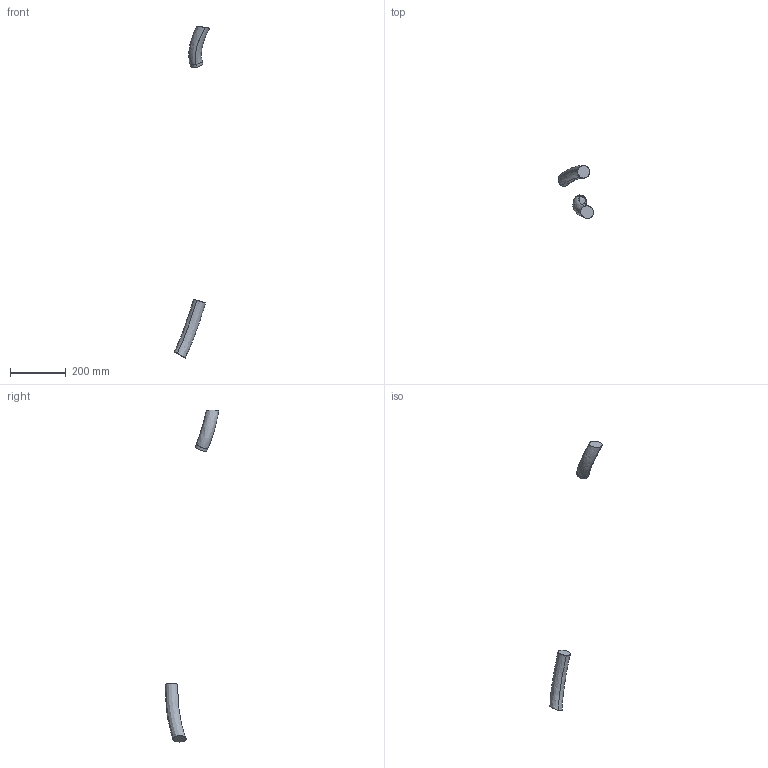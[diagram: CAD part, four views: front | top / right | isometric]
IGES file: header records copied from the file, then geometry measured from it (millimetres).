
Start section: SolidWorks IGES file using analytic representation for surfaces
Global section: file name: C:\DATA\SAP_DOC\LW\IRB 6730\IRB6730_210kg-310_OC_01_SW_J\Export\IRB6730_210kg-310_OC_01_IGES_J\IRB6730_210kg-310_OC_00_LINK02m_CABLE.igs; native system: SolidWorks 2024; preprocessor: SolidWorks 2024; author: SEJOVAS3; date: 260526.104109; units: millimetre
Bounding box: 126.77 x 191.36 x 1187.21 mm (x, y, z)
Surface area: 56708.1 mm2 (no closed solid volume)
Topology: 0 solids, 0 shells, 10 faces, 373 edges, 373 vertices
Faces by surface type: bspline 8, revolution 2
